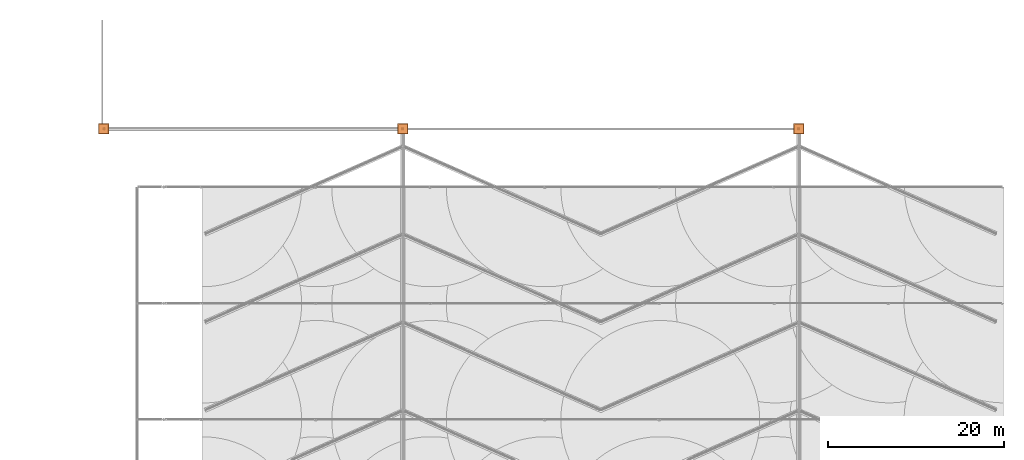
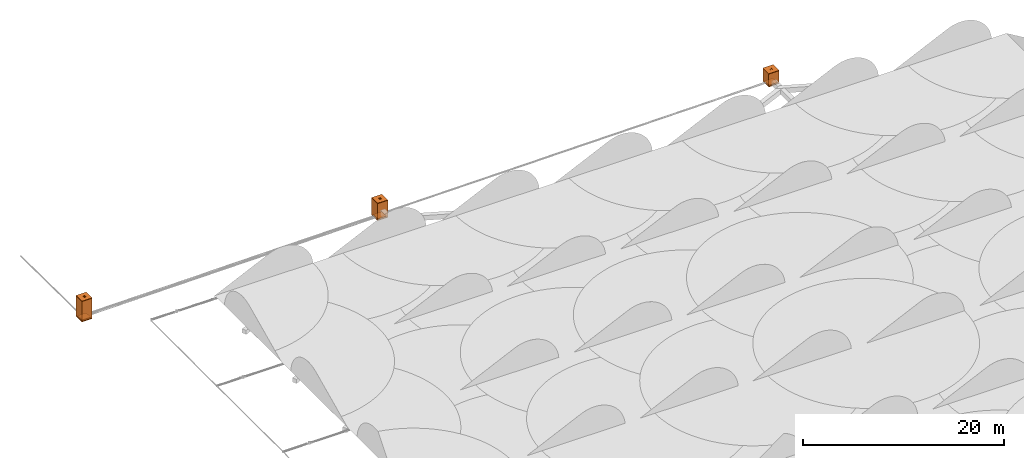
# One storey, part 165 of 166: 12 proxies.
"""IFC2X3 building model written with IfcOpenShell, lengths in metres."""

import ifcopenshell
import ifcopenshell.guid

model = None  # the IFC model being written
_history = None  # IfcOwnerHistory: only IFC2X3 demands one
_inside = {}  # id of a spatial element -> (the spatial element, [elements in it])
_under = {}  # id of a project, library or spatial element -> (it, [spatial elements below it])
_declared = {}  # id of a project -> (the project, [libraries it declares])
_typed = {}  # id of a type object -> (the type object, [elements of that type])
_made_of = {}  # id of a material, layer set ... -> (it, [elements and type objects made of it])


def new_model(schema):
    """Start an empty IFC model of exactly this schema.

    Asked for "IFC4X3", IfcOpenShell would pick the latest addendum, in which some entities
    have other attributes; the version numbers below select the first issue.
    IFC2X3 requires an IfcOwnerHistory on every rooted entity: one is made here for all.
    """
    global model, _history
    if schema == "IFC4X3":
        model = ifcopenshell.file(schema_version=(4, 3, 0, 0))
    else:
        model = ifcopenshell.file(schema=schema)
    _inside.clear()
    _under.clear()
    _declared.clear()
    _typed.clear()
    _made_of.clear()
    _history = None
    if model.schema == "IFC2X3":
        org = make("IfcOrganization", Name="unknown")
        user = make(
            "IfcPersonAndOrganization",
            ThePerson=make("IfcPerson", FamilyName="unknown"),
            TheOrganization=org,
        )
        app = make(
            "IfcApplication",
            ApplicationDeveloper=org,
            Version="unknown",
            ApplicationFullName="unknown",
            ApplicationIdentifier="unknown",
        )
        _history = make(
            "IfcOwnerHistory",
            OwningUser=user,
            OwningApplication=app,
            ChangeAction="ADDED",
            CreationDate=0,
        )
    return model


def make(cls, **values):
    """One entity of the class cls with the attributes given. An attribute that is None is left unset."""
    return model.create_entity(
        cls, **{name: value for name, value in values.items() if value is not None}
    )


def entity(cls, *values):
    """Any entity or typed value of the class cls, its attributes in the order of the schema. None: left unset."""
    e = model.create_entity(cls)
    for i, value in enumerate(values):
        if value is not None:
            e[i] = value
    return e


def rooted(cls, **values):
    """An entity with a GlobalId (a new one), such as an element, a storey or a relation."""
    return make(cls, GlobalId=ifcopenshell.guid.new(), OwnerHistory=_history, **values)


def si_unit(unit_type, name, prefix=None):
    """IfcSIUnit, for example si_unit("LENGTHUNIT", "METRE", prefix="MILLI")."""
    return make("IfcSIUnit", UnitType=unit_type, Prefix=prefix, Name=name)


def converted_unit(unit_type, name, factor, base, dimensions=None, offset=None):
    """IfcConversionBasedUnit, such as the inch: factor (a typed value) times the base unit."""
    return make(
        "IfcConversionBasedUnit"
        if offset is None
        else "IfcConversionBasedUnitWithOffset",
        ConversionOffset=offset,
        Dimensions=None
        if dimensions is None
        else entity("IfcDimensionalExponents", *dimensions),
        UnitType=unit_type,
        Name=name,
        ConversionFactor=make(
            "IfcMeasureWithUnit", ValueComponent=factor, UnitComponent=base
        ),
    )


def assignment(units):
    """IfcUnitAssignment: the units of a project."""
    return None if units is None else make("IfcUnitAssignment", Units=units)


def point(xyz):
    """IfcCartesianPoint."""
    return None if xyz is None else make("IfcCartesianPoint", Coordinates=xyz)


def direction(xyz):
    """IfcDirection."""
    return None if xyz is None else make("IfcDirection", DirectionRatios=xyz)


def frame(location, z_axis=None, x_axis=None):
    """IfcAxis2Placement3D, a coordinate frame: its origin and axes. An axis left out is left unset."""
    return make(
        "IfcAxis2Placement3D",
        Location=point(location),
        Axis=direction(z_axis),
        RefDirection=direction(x_axis),
    )


def frame_2d(location, x_axis=None):
    """IfcAxis2Placement2D, a coordinate frame in the plane: its origin and x axis."""
    return make(
        "IfcAxis2Placement2D", Location=point(location), RefDirection=direction(x_axis)
    )


def origin():
    """The frame at (0, 0, 0) with its axes left unset."""
    return frame((0.0, 0.0, 0.0))


def origin_2d_with_axis():
    """The frame at (0, 0) in the plane with the x axis (1, 0) written out."""
    return frame_2d((0.0, 0.0), x_axis=(1.0, 0.0))


def place(relative_to, where):
    """IfcLocalPlacement: puts the frame where relative to a parent placement (None: the world)."""
    return make(
        "IfcLocalPlacement", PlacementRelTo=relative_to, RelativePlacement=where
    )


def context(
    kind, dimensions, precision=None, world=None, true_north=None, identifier=None
):
    """IfcGeometricRepresentationContext, for example the 3D "Model" context."""
    return make(
        "IfcGeometricRepresentationContext",
        ContextIdentifier=identifier,
        ContextType=kind,
        CoordinateSpaceDimension=dimensions,
        Precision=precision,
        WorldCoordinateSystem=world,
        TrueNorth=true_north,
    )


def subcontext(parent, identifier, kind, view, scale=None):
    """IfcGeometricRepresentationSubContext, for example "Body" below "Model"."""
    return make(
        "IfcGeometricRepresentationSubContext",
        ContextIdentifier=identifier,
        ContextType=kind,
        ParentContext=parent,
        TargetScale=scale,
        TargetView=view,
    )


def project(units=None, contexts=None):
    """IfcProject with its units and contexts."""
    return rooted(
        "IfcProject",
        Name="project",
        RepresentationContexts=contexts,
        UnitsInContext=assignment(units),
    )


def spatial(cls, under=None, at=None, **own):
    """A site, building, storey or space (cls), placed at a placement, below another one or the project."""
    s = rooted(cls, ObjectPlacement=at, **own)
    if under is not None:
        _under.setdefault(under.id(), (under, []))[1].append(s)
    return s


def polyline(points):
    """IfcPolyline through the points."""
    return make("IfcPolyline", Points=[point(p) for p in points])


def profile(cls, at=None, kind="AREA", **sizes):
    """A parametric profile (cls). Its sizes go by their IFC names, for example OverallWidth=200.0."""
    return make(cls, ProfileType=kind, Position=at, **sizes)


def rectangle(**sizes):
    """IfcRectangleProfileDef."""
    return profile("IfcRectangleProfileDef", **sizes)


def outline(outer, holes=None, kind="AREA"):
    """IfcArbitraryClosedProfileDef: a profile drawn as a closed curve; with holes, ...WithVoids."""
    if holes is None:
        return make("IfcArbitraryClosedProfileDef", ProfileType=kind, OuterCurve=outer)
    return make(
        "IfcArbitraryProfileDefWithVoids",
        ProfileType=kind,
        OuterCurve=outer,
        InnerCurves=holes,
    )


def extrude(swept, where, along, depth):
    """IfcExtrudedAreaSolid: the profile swept, set in the frame where, extruded along a direction by depth."""
    return make(
        "IfcExtrudedAreaSolid",
        SweptArea=swept,
        Position=where,
        ExtrudedDirection=direction(along),
        Depth=depth,
    )


def shape(context_of_items, identifier, shape_type, items):
    """IfcShapeRepresentation: the items that make up one representation, for example the "Body"."""
    return make(
        "IfcShapeRepresentation",
        ContextOfItems=context_of_items,
        RepresentationIdentifier=identifier,
        RepresentationType=shape_type,
        Items=items,
    )


def source(mapping_origin, context_of_items, identifier, shape_type, items):
    """IfcRepresentationMap: a shape defined once, which mapped items show again and again."""
    return make(
        "IfcRepresentationMap",
        MappingOrigin=mapping_origin,
        MappedRepresentation=shape(context_of_items, identifier, shape_type, items),
    )


def transform(
    local_origin,
    x_axis=None,
    y_axis=None,
    z_axis=None,
    scale=None,
    scale2=None,
    scale3=None,
    uniform=True,
):
    """IfcCartesianTransformationOperator3D, or its non-uniform kind. x_axis, y_axis, z_axis: its Axis1, 2, 3."""
    if uniform:
        return make(
            "IfcCartesianTransformationOperator3D",
            Axis1=direction(x_axis),
            Axis2=direction(y_axis),
            LocalOrigin=point(local_origin),
            Scale=scale,
            Axis3=direction(z_axis),
        )
    return make(
        "IfcCartesianTransformationOperator3DnonUniform",
        Axis1=direction(x_axis),
        Axis2=direction(y_axis),
        LocalOrigin=point(local_origin),
        Scale=scale,
        Axis3=direction(z_axis),
        Scale2=scale2,
        Scale3=scale3,
    )


def mapped(mapping_source, mapping_target):
    """IfcMappedItem: shows the shape of a source again, moved by a transform."""
    return make(
        "IfcMappedItem", MappingSource=mapping_source, MappingTarget=mapping_target
    )


def material(Name=None, Category=None):
    """IfcMaterial."""
    return make("IfcMaterial", Name=Name, Category=Category)


def material_list(materials):
    """IfcMaterialList."""
    return make("IfcMaterialList", Materials=materials)


def made_of(thing, what):
    """Note that an element or type object is made of a material, layer set ...; save() writes the relation."""
    if what is not None:
        _made_of.setdefault(what.id(), (what, []))[1].append(thing)
    return thing


def type_object(cls, material=None, **own):
    """A type object (cls), such as IfcWallType, which elements share."""
    return made_of(rooted(cls, **own), material)


def type_shapes(of_type, sources):
    """Give a type object the sources (RepresentationMaps) that its elements show as mapped items."""
    of_type.RepresentationMaps = sources


def element(
    cls,
    number,
    at=None,
    inside=None,
    cuts=None,
    type_object=None,
    material=None,
    context=None,
    identifier="Body",
    shape_type=None,
    held_by="IfcProductDefinitionShape",
    body=None,
    shapes=None,
    **own,
):
    """One element of the class cls, such as IfcWall. Its Tag is "e" and its number.

    at: its placement. inside: the storey or other place that contains it. cuts: it is an
    opening in that element (IfcRelVoidsElement). A single representation is given by context,
    identifier, shape_type and body (its items); several are given by shapes. held_by: the class
    of the entity that holds the representations. save() writes the other relations.
    """
    e = rooted(cls, Tag="e%d" % number, ObjectPlacement=at, **own)
    if body is not None:
        shapes = [shape(context, identifier, shape_type, body)]
    if shapes is not None:
        e.Representation = make(held_by, Representations=shapes)
    if inside is not None:
        _inside.setdefault(inside.id(), (inside, []))[1].append(e)
    if cuts is not None:
        rooted(
            "IfcRelVoidsElement", RelatingBuildingElement=cuts, RelatedOpeningElement=e
        )
    if type_object is not None:
        _typed.setdefault(type_object.id(), (type_object, []))[1].append(e)
    return made_of(e, material)


def aggregate(whole, parts):
    """IfcRelAggregates: a whole, such as a stair, and the parts it consists of."""
    return rooted("IfcRelAggregates", RelatingObject=whole, RelatedObjects=parts)


def save(model, path):
    """Write the relations noted so far, then the file.

    IfcRelAggregates (storeys below a building ...), IfcRelContainedInSpatialStructure (elements
    in a storey), IfcRelDefinesByType, IfcRelAssociatesMaterial and IfcRelDeclares: one each for
    every whole, place, type object, material and project.
    """
    for whole, parts in _under.values():
        aggregate(whole, parts)
    for where, things in _inside.values():
        rooted(
            "IfcRelContainedInSpatialStructure",
            RelatedElements=things,
            RelatingStructure=where,
        )
    for kind, things in _typed.values():
        rooted("IfcRelDefinesByType", RelatedObjects=things, RelatingType=kind)
    for what, things in _made_of.values():
        rooted("IfcRelAssociatesMaterial", RelatedObjects=things, RelatingMaterial=what)
    for by, libraries in _declared.values():
        rooted("IfcRelDeclares", RelatingContext=by, RelatedDefinitions=libraries)
    model.write(path)


model = new_model("IFC2X3")

# Units and contexts
model_context = context("Model", 3, precision=1e-05, world=origin(), true_north=direction((6.123233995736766e-17, 1.0)))
body_context = subcontext(model_context, "Body", "Model", "MODEL_VIEW")
ifc_project = project(units=[si_unit("LENGTHUNIT", "METRE"), converted_unit("PLANEANGLEUNIT", "DEGREE", entity("IfcPlaneAngleMeasure", 0.017453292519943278), si_unit("PLANEANGLEUNIT", "RADIAN"), dimensions=[0, 0, 0, 0, 0, 0, 0]), si_unit("AREAUNIT", "SQUARE_METRE")], contexts=[model_context])

# Site, building, storey
site_placement = place(None, origin())
site = spatial("IfcSite", under=ifc_project, at=site_placement, Name="Default", CompositionType="ELEMENT")
building_placement = place(site_placement, origin())
building = spatial("IfcBuilding", under=site, at=building_placement, Name="CASA DE ACOLHIDA PARA IDOSOS", CompositionType="ELEMENT")
storey_placement = place(building_placement, frame((0.0, 0.0, -1.7499999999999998)))
storey = spatial("IfcBuildingStorey", under=building, at=storey_placement, Name="IMPLANTAÇÃO DRENAGEM", CompositionType="ELEMENT", Elevation=-1.7499999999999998)

# Proxies
ifc_material_1 = material(Name="Alvenaria")
building_element_proxy_type_1 = type_object("IfcBuildingElementProxyType", Name="Alvenaria prismática:Alvenaria prismática", PredefinedType="NOTDEFINED", material=ifc_material_1)
shared_shape_1 = source(origin(), body_context, "Body", "SweptSolid", [
    extrude(outline(polyline([(-0.5870000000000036, -0.5870000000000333), (0.5870000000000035, -0.5870000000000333), (0.5870000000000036, 0.5870000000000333), (-0.5870000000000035, 0.5870000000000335), (-0.5870000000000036, -0.5870000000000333)]), holes=[polyline([(0.4999999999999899, 0.49999999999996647), (0.4999999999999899, -0.5000000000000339), (-0.49999999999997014, -0.5000000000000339), (-0.49999999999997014, 0.4999999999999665), (0.4999999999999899, 0.49999999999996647)])]), frame((0.5869999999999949, 0.0, -0.013000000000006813), z_axis=(0.0, 0.0, 1.0), x_axis=(-1.0, 0.0, 0.0)), (0.0, 0.0, 1.0), 2.0000000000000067),
])
type_shapes(building_element_proxy_type_1, [shared_shape_1])
proxy_1_placement = place(storey_placement, frame((-22.568366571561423, 55.854692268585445, -2.036999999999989)))
element("IfcBuildingElementProxy", 1, at=proxy_1_placement, inside=storey, type_object=building_element_proxy_type_1, material=ifc_material_1, Name="Alvenaria prismática:Alvenaria prismática", ObjectType="Alvenaria prismática:Alvenaria prismática", context=body_context, shape_type="MappedRepresentation", body=[
    mapped(shared_shape_1, transform((0.0, 0.0, 0.0), scale=1.0)),
])
ifc_material_2 = material(Name="Concreto")
building_element_proxy_type_2 = type_object("IfcBuildingElementProxyType", Name="Laje Concreto (Inspeção):Laje Concreto (Inspeção)", PredefinedType="NOTDEFINED", material=ifc_material_2)
shared_shape_2 = source(origin(), body_context, "Body", "SweptSolid", [
    extrude(rectangle(XDim=1.1740000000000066, YDim=1.174000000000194, at=origin_2d_with_axis()), frame((0.5870000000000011, 0.0, -0.07999999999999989), z_axis=(0.0, 0.0, 1.0), x_axis=(-1.0, 0.0, 0.0)), (0.0, 0.0, 1.0), 0.07999999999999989),
])
type_shapes(building_element_proxy_type_2, [shared_shape_2])
for number, where, name in (
    (2, (-22.568366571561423, 55.854692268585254, -2.0499999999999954), "Laje Concreto (Inspeção):Laje Concreto (Inspeção)"),
    (3, (22.381633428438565, 55.854692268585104, -1.549999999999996), "Laje Concreto (Inspeção):Laje Concreto (Inspeção)"),
    (4, (-56.54336657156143, 55.85469226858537, -2.4499999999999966), "Laje Concreto (Inspeção):Laje Concreto (Inspeção)"),
):
    element("IfcBuildingElementProxy", number, at=place(storey_placement, frame(where)), inside=storey, type_object=building_element_proxy_type_2, material=ifc_material_2, Name=name, ObjectType="Laje Concreto (Inspeção):Laje Concreto (Inspeção)", context=body_context, shape_type="MappedRepresentation", body=[
        mapped(shared_shape_2, transform((0.0, 0.0, 0.0), scale=1.0)),
    ])
ifc_material_3 = material(Name="Aço")
ifc_material_list = material_list([ifc_material_3, ifc_material_2])
building_element_proxy_type_3 = type_object("IfcBuildingElementProxyType", Name="Tampa de Concreto com Grelha (Inspeção):Tampa de Concreto com Grelha (Inspeção)", PredefinedType="NOTDEFINED", material=ifc_material_list)
shared_shape_3 = source(origin(), body_context, "Body", "SweptSolid", [
    extrude(outline(polyline([(-0.15000000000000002, -0.15000000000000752), (0.15000000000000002, -0.15000000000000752), (0.15000000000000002, 0.15000000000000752), (-0.15000000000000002, 0.15000000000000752), (-0.15000000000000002, -0.15000000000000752)]), holes=[polyline([(0.10749999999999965, 0.1350000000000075), (0.13500000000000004, 0.13500000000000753), (0.13500000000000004, -0.13500000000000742), (0.10749999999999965, -0.13500000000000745), (0.10749999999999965, 0.1350000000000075)]), polyline([(-0.10750000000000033, -0.13500000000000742), (-0.13500000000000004, -0.13500000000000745), (-0.13500000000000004, 0.1350000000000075), (-0.10750000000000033, 0.13500000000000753), (-0.10750000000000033, -0.13500000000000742)]), polyline([(0.09249999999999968, 0.13500000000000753), (0.09249999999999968, -0.13500000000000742), (0.06749999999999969, -0.13500000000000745), (0.06749999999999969, 0.1350000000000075), (0.09249999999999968, 0.13500000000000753)]), polyline([(0.05249999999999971, 0.13500000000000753), (0.05249999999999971, -0.13500000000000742), (0.027499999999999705, -0.13500000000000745), (0.027499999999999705, 0.1350000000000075), (0.05249999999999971, 0.13500000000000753)]), polyline([(0.012499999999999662, 0.13500000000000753), (0.012499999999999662, -0.13500000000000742), (-0.012500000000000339, -0.13500000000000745), (-0.012500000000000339, 0.1350000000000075), (0.012499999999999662, 0.13500000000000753)]), polyline([(-0.027500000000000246, 0.13500000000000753), (-0.027500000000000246, -0.13500000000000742), (-0.05250000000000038, -0.13500000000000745), (-0.05250000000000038, 0.1350000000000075), (-0.027500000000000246, 0.13500000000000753)]), polyline([(-0.06750000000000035, 0.13500000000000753), (-0.06750000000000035, -0.13500000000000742), (-0.09250000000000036, -0.13500000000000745), (-0.09250000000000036, 0.1350000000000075), (-0.06750000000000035, 0.13500000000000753)])]), frame((0.5869999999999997, 0.0, -0.049999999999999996), z_axis=(0.0, 0.0, 1.0), x_axis=(-1.0, 0.0, 0.0)), (0.0, 0.0, 1.0), 0.049999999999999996),
    extrude(outline(polyline([(-0.5870000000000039, -0.5870000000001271), (0.5870000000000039, -0.5870000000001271), (0.5870000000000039, 0.5870000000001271), (-0.5870000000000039, 0.5870000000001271), (-0.5870000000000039, -0.5870000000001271)]), holes=[polyline([(-0.15000000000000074, -0.14999999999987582), (-0.15000000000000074, 0.15000000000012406), (0.14999999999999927, 0.15000000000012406), (0.14999999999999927, -0.14999999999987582), (-0.15000000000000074, -0.14999999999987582)])]), frame((0.5870000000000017, 0.0, -0.049999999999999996), z_axis=(0.0, 0.0, 1.0), x_axis=(-1.0, 0.0, 0.0)), (0.0, 0.0, 1.0), 0.049999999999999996),
])
type_shapes(building_element_proxy_type_3, [shared_shape_3])
for number, where, name in (
    (5, (-22.56836657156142, 55.854692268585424, 0.0), "Tampa de Concreto com Grelha (Inspeção):Tampa de Concreto com Grelha (Inspeção)"),
    (6, (22.381633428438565, 55.85469226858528, 0.0), "Tampa de Concreto com Grelha (Inspeção):Tampa de Concreto com Grelha (Inspeção)"),
    (7, (-56.54336657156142, 55.85469226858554, 0.0), "Tampa de Concreto com Grelha (Inspeção):Tampa de Concreto com Grelha (Inspeção)"),
):
    element("IfcBuildingElementProxy", number, at=place(storey_placement, frame(where)), inside=storey, type_object=building_element_proxy_type_3, material=ifc_material_list, Name=name, ObjectType="Tampa de Concreto com Grelha (Inspeção):Tampa de Concreto com Grelha (Inspeção)", context=body_context, shape_type="MappedRepresentation", body=[
        mapped(shared_shape_3, transform((0.0, 0.0, 0.0), scale=1.0)),
    ])
ifc_material_4 = material(Name="Argamassa")
building_element_proxy_type_4 = type_object("IfcBuildingElementProxyType", Name="Argamassa Impermeável Rampa (Inspeção):Argamassa Impermeável Rampa (Inspeção)", PredefinedType="NOTDEFINED", material=ifc_material_4)
shared_shape_4 = source(origin(), body_context, "Body", "SweptSolid", [
    extrude(outline(polyline([(-0.33333333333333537, -0.026666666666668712), (0.6666666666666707, -0.026666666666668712), (-0.33333333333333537, 0.05333333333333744), (-0.33333333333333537, -0.026666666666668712)])), frame((0.1000000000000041, -0.16666666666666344, 0.026666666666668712), z_axis=(1.0, 0.0, 0.0), x_axis=(0.0, 1.0, 0.0)), (0.0, 0.0, 1.0), 1.0000000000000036),
])
type_shapes(building_element_proxy_type_4, [shared_shape_4])
for number, where, name in (
    (8, (-22.581366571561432, 55.85469226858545, -2.0499999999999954), "Argamassa Impermeável Rampa (Inspeção):Argamassa Impermeável Rampa (Inspeção)"),
    (9, (22.36863342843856, 55.8546922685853, -1.5499999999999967), "Argamassa Impermeável Rampa (Inspeção):Argamassa Impermeável Rampa (Inspeção)"),
    (10, (-56.55636657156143, 55.854692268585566, -2.4499999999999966), "Argamassa Impermeável Rampa (Inspeção):Argamassa Impermeável Rampa (Inspeção)"),
):
    element("IfcBuildingElementProxy", number, at=place(storey_placement, frame(where)), inside=storey, type_object=building_element_proxy_type_4, material=ifc_material_4, Name=name, ObjectType="Argamassa Impermeável Rampa (Inspeção):Argamassa Impermeável Rampa (Inspeção)", context=body_context, shape_type="MappedRepresentation", body=[
        mapped(shared_shape_4, transform((0.0, 0.0, 0.0), scale=1.0)),
    ])
building_element_proxy_type_5 = type_object("IfcBuildingElementProxyType", Name="Alvenaria prismática:Alvenaria prismática", PredefinedType="NOTDEFINED", material=ifc_material_1)
shared_shape_5 = source(origin(), body_context, "Body", "SweptSolid", [
    extrude(outline(polyline([(-0.5870000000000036, -0.5870000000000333), (0.5870000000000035, -0.5870000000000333), (0.5870000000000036, 0.5870000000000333), (-0.5870000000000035, 0.5870000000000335), (-0.5870000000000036, -0.5870000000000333)]), holes=[polyline([(0.4999999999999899, 0.49999999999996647), (0.4999999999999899, -0.5000000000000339), (-0.49999999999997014, -0.5000000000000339), (-0.49999999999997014, 0.4999999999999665), (0.4999999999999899, 0.49999999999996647)])]), frame((0.5869999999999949, 0.0, -0.013000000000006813), z_axis=(0.0, 0.0, 1.0), x_axis=(-1.0, 0.0, 0.0)), (0.0, 0.0, 1.0), 1.5000000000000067),
])
type_shapes(building_element_proxy_type_5, [shared_shape_5])
proxy_2_placement = place(storey_placement, frame((22.381633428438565, 55.854692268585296, -1.5369999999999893)))
element("IfcBuildingElementProxy", 11, at=proxy_2_placement, inside=storey, type_object=building_element_proxy_type_5, material=ifc_material_1, Name="Alvenaria prismática:Alvenaria prismática", ObjectType="Alvenaria prismática:Alvenaria prismática", context=body_context, shape_type="MappedRepresentation", body=[
    mapped(shared_shape_5, transform((0.0, 0.0, 0.0), scale=1.0)),
])
building_element_proxy_type_6 = type_object("IfcBuildingElementProxyType", Name="Alvenaria prismática:Alvenaria prismática", PredefinedType="NOTDEFINED", material=ifc_material_1)
shared_shape_6 = source(origin(), body_context, "Body", "SweptSolid", [
    extrude(outline(polyline([(-0.5870000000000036, -0.5870000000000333), (0.5870000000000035, -0.5870000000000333), (0.5870000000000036, 0.5870000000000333), (-0.5870000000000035, 0.5870000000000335), (-0.5870000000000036, -0.5870000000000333)]), holes=[polyline([(0.4999999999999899, 0.49999999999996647), (0.4999999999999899, -0.5000000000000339), (-0.49999999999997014, -0.5000000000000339), (-0.49999999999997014, 0.4999999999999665), (0.4999999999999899, 0.49999999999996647)])]), frame((0.5869999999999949, 0.0, -0.013000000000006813), z_axis=(0.0, 0.0, 1.0), x_axis=(-1.0, 0.0, 0.0)), (0.0, 0.0, 1.0), 2.4000000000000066),
])
type_shapes(building_element_proxy_type_6, [shared_shape_6])
proxy_3_placement = place(storey_placement, frame((-56.54336657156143, 55.85469226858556, -2.436999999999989)))
element("IfcBuildingElementProxy", 12, at=proxy_3_placement, inside=storey, type_object=building_element_proxy_type_6, material=ifc_material_1, Name="Alvenaria prismática:Alvenaria prismática", ObjectType="Alvenaria prismática:Alvenaria prismática", context=body_context, shape_type="MappedRepresentation", body=[
    mapped(shared_shape_6, transform((0.0, 0.0, 0.0), scale=1.0)),
])

save(model, "model.ifc")
